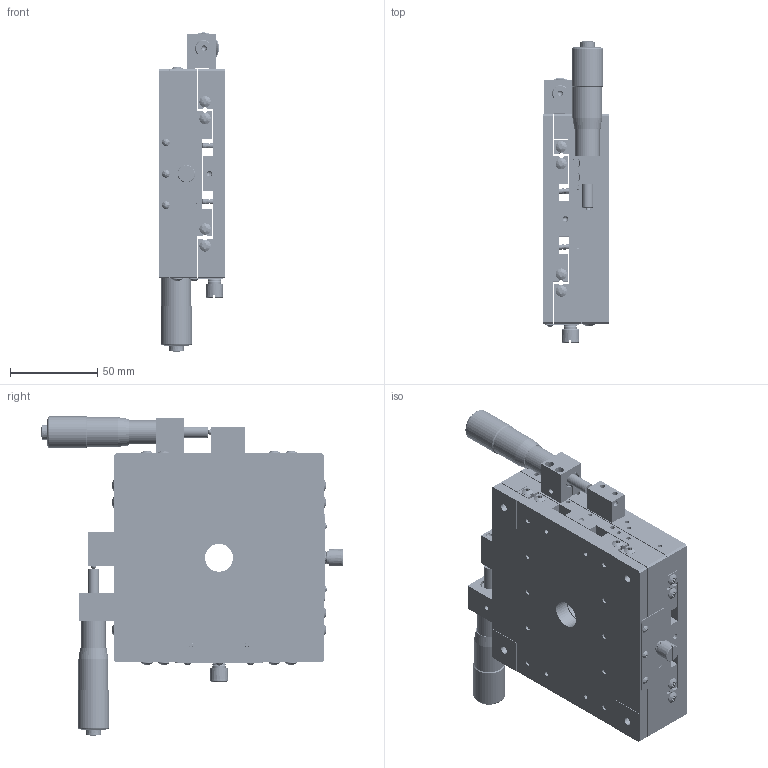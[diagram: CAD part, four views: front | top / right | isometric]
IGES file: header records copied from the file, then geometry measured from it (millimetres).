
Start section: SolidWorks IGES file using analytic representation for surfaces
Global section: file name: E:\0产品2d3d图纸-20180629\0-3种格式文件\产品图纸3d\07PHL\120\PHL-12122SR.IGS; native system: SolidWorks 2015; preprocessor: SolidWorks 2015; author: Administrator; date: 180724.115617; units: millimetre
Bounding box: 38 x 172.94 x 182.99 mm (x, y, z)
Surface area: 214529.5 mm2 (no closed solid volume)
Topology: 0 solids, 0 shells, 2662 faces, 45592 edges, 45548 vertices
Faces by surface type: bspline 1403, revolution 1259
